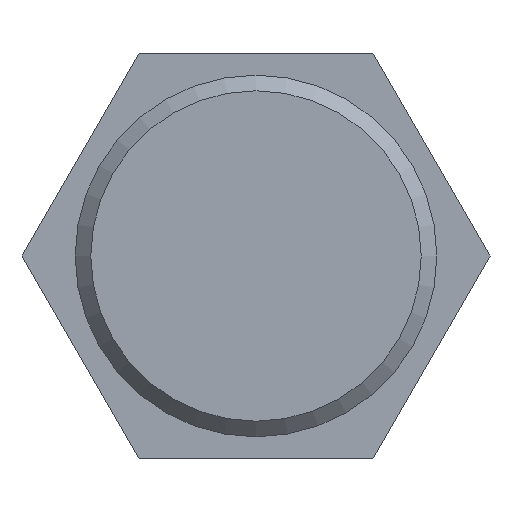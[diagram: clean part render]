
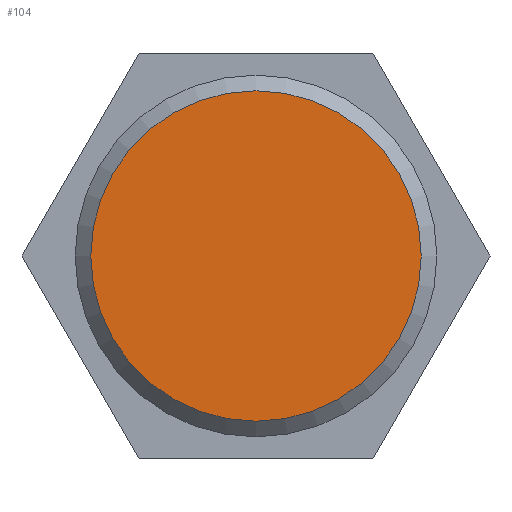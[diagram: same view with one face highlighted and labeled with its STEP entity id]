
A CAD part, left-side view. The second image highlights one B-rep face of the part: STEP entity #104.
In plain terms, the highlighted planar face has unit normal (-1, 0, 0).
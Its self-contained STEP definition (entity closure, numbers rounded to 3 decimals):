
#73=CARTESIAN_POINT('',(0.,10.6,0.));
#74=VERTEX_POINT('',#73);
#75=CARTESIAN_POINT('',(0.,0.0,0.0));
#76=DIRECTION('',(1.0,0.0,0.0));
#77=DIRECTION('',(0.0,-1.0,0.0));
#78=AXIS2_PLACEMENT_3D('',#75,#76,#77);
#79=CIRCLE('',#78,10.6);
#80=EDGE_CURVE('',#74,#74,#79,.T.);
#96=CARTESIAN_POINT('',(0.,5.8,0.0));
#97=DIRECTION('',(-1.0,0.0,0.0));
#98=DIRECTION('',(0.0,0.0,1.0));
#99=AXIS2_PLACEMENT_3D('',#96,#97,#98);
#100=PLANE('',#99);
#101=ORIENTED_EDGE('',*,*,#80,.F.);
#102=EDGE_LOOP('',(#101));
#103=FACE_OUTER_BOUND('',#102,.T.);
#104=ADVANCED_FACE('',(#103),#100,.T.);
